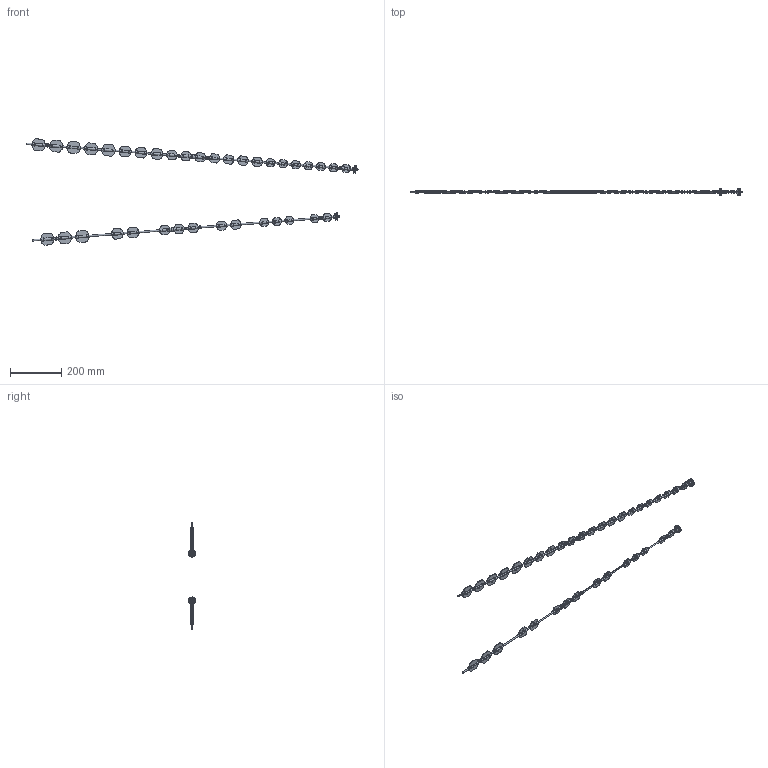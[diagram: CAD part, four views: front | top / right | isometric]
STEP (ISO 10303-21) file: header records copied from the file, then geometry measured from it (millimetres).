
FILE_DESCRIPTION((''),'2;1');
FILE_NAME('0000237311_ASM','2025-11-15T12:25:38',('Wyndorps'),(''),'CREO PARAMETRIC BY PTC INC, 2025323','CREO PARAMETRIC BY PTC INC, 2025323','');
FILE_SCHEMA(('CONFIG_CONTROL_DESIGN'));
Length unit declared in the file: millimetre
Products named in the file (19): 0000237054; 0000237055; 0000237056; 0000237057; 0000237059; 0000237058; 0000239489; 0000237227; 9000068012; 0000236936_ASM; 0000237295; 0000236937_ASM; 0000239488; 0000236938_ASM; 0000237293; 0000236935_ASM; 0000237053; 0000237155; 0000237311_ASM
Assembly tree (64 placements, depth 3):
  0000237311_ASM
    0000237054  x9
    0000237055  x5
    0000237056  x8
    0000237057  x12
    0000237059  x2
    0000237058  x2
    0000236936_ASM
      0000239489
      0000237227
      9000068012
    0000236937_ASM
      0000237295
      0000237227
      9000068012
    0000236938_ASM
      0000239488
      0000237227
      9000068012
    0000236935_ASM
      0000237293
      0000237227
      9000068012
    0000237053  x2
    0000237155  x8
Bounding box: 1295.31 x 29.39 x 414.97 mm (x, y, z)
Volume: 210661.3 mm3; surface area: 220852.5 mm2
Topology: 60 solids, 68 shells, 4694 faces, 11413 edges, 7138 vertices
Faces by surface type: plane 1518, cylinder 1358, extrusion 650, bspline 474, torus 248, sphere 228, cone 218
Entity records: 40970 total; most frequent: CARTESIAN_POINT 19720, ORIENTED_EDGE 4364, DIRECTION 4129, EDGE_CURVE 2192, AXIS2_PLACEMENT_3D 1522, VERTEX_POINT 1377, VECTOR 1085, EDGE_LOOP 995
